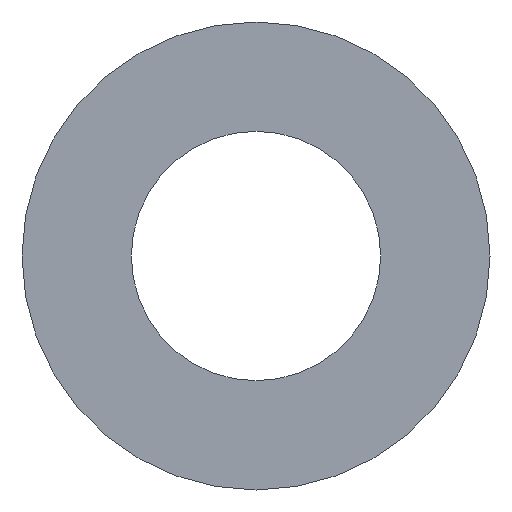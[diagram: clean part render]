
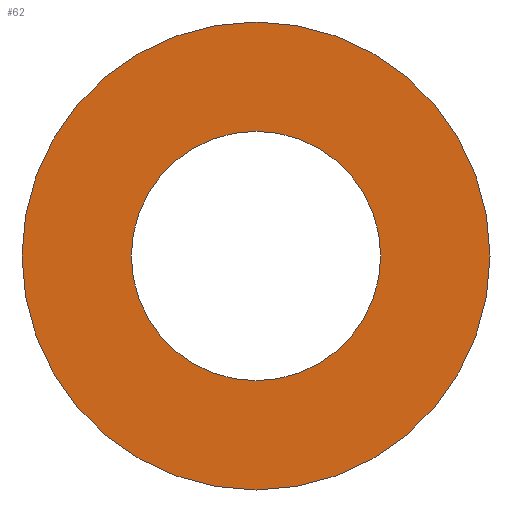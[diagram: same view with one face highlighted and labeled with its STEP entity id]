
A CAD part, front view. The second image highlights one B-rep face of the part: STEP entity #62.
In plain terms, the highlighted planar face has unit normal (0, -1, 0).
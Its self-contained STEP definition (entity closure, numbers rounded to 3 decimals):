
#20=PLANE('',#83);
#26=ORIENTED_EDGE('',*,*,#30,.T.);
#27=ORIENTED_EDGE('',*,*,#32,.F.);
#30=EDGE_CURVE('',#34,#34,#38,.T.);
#32=EDGE_CURVE('',#36,#36,#40,.T.);
#34=VERTEX_POINT('',#106);
#36=VERTEX_POINT('',#111);
#38=CIRCLE('',#78,28.5);
#40=CIRCLE('',#81,53.5);
#46=EDGE_LOOP('',(#26));
#47=EDGE_LOOP('',(#27));
#54=FACE_BOUND('',#46,.T.);
#55=FACE_BOUND('',#47,.T.);
#62=ADVANCED_FACE('',(#54,#55),#20,.F.);
#78=AXIS2_PLACEMENT_3D('',#105,#89,#90);
#81=AXIS2_PLACEMENT_3D('',#110,#95,#96);
#83=AXIS2_PLACEMENT_3D('',#114,#99,#100);
#89=DIRECTION('',(0.,1.,0.));
#90=DIRECTION('',(1.,0.,0.));
#95=DIRECTION('',(0.,1.,0.));
#96=DIRECTION('',(1.,0.,0.));
#99=DIRECTION('',(0.,1.,0.));
#100=DIRECTION('',(0.,0.,1.));
#105=CARTESIAN_POINT('',(0.,-1.5,0.));
#106=CARTESIAN_POINT('',(28.5,-1.5,0.));
#110=CARTESIAN_POINT('',(0.,-1.5,0.));
#111=CARTESIAN_POINT('',(53.5,-1.5,0.));
#114=CARTESIAN_POINT('',(0.,-1.5,0.));
